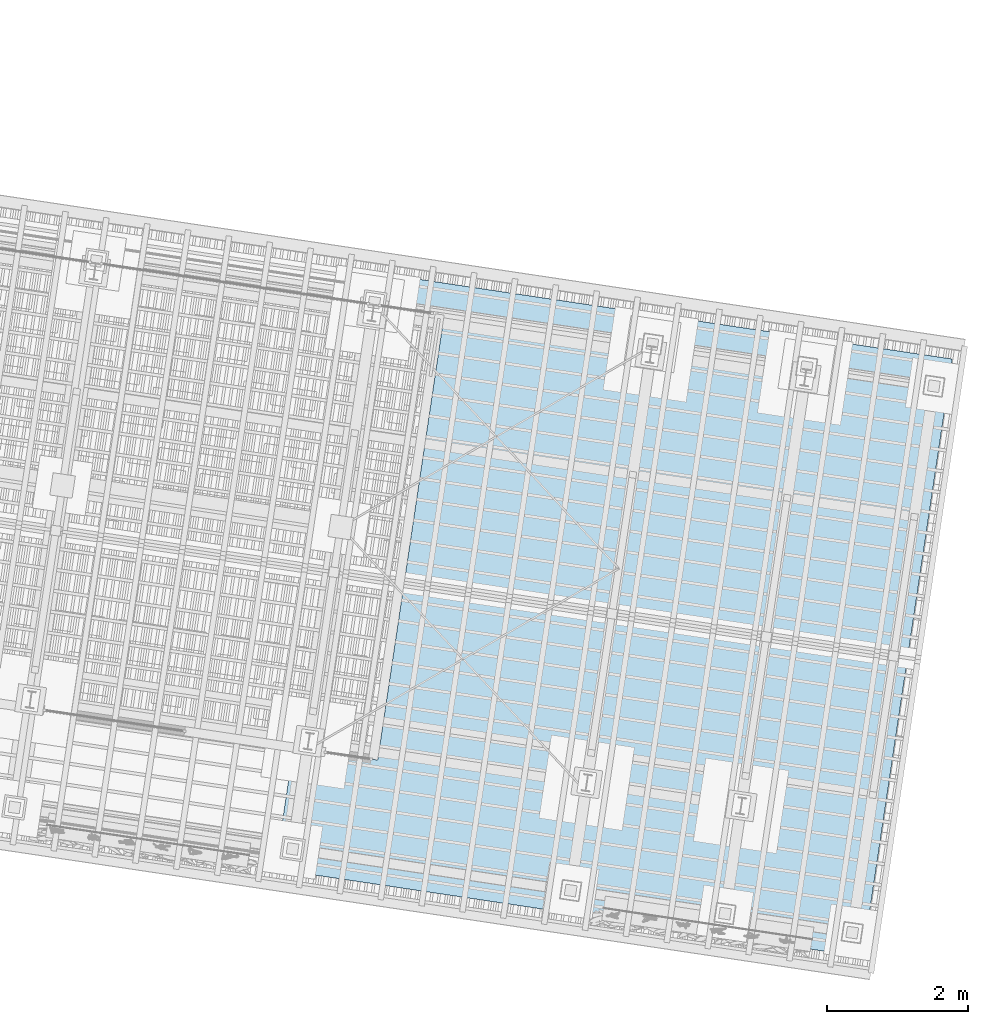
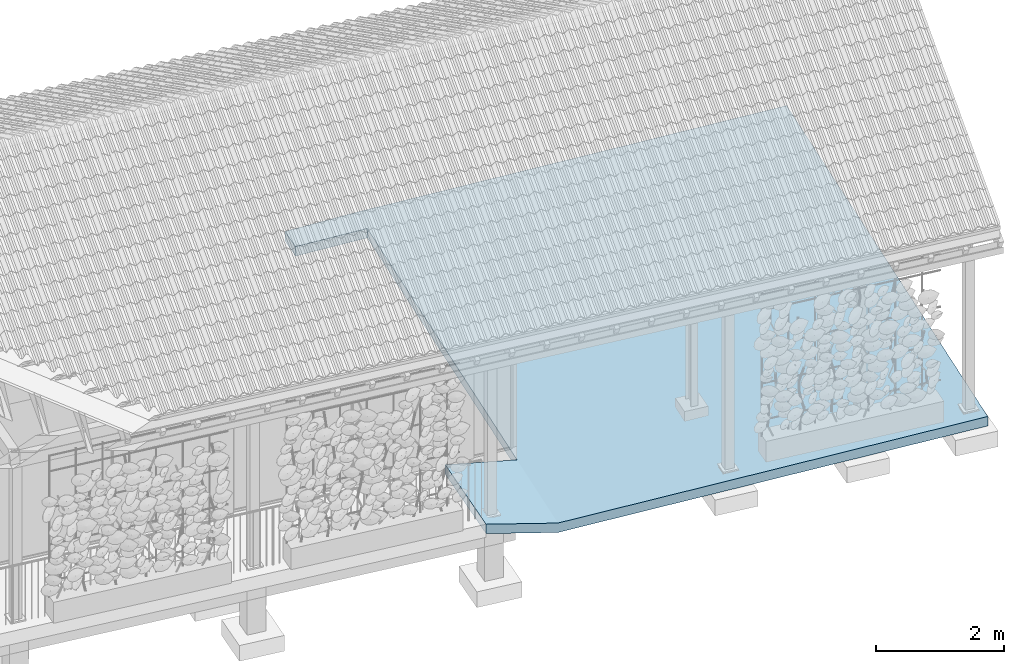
# One storey, part 123 of 131: 1 slab, 1 element without a shape of its own.
"""IFC4 building model written with IfcOpenShell, lengths in metres."""

from ifc_helpers import new_model, si_unit, direction, frame, origin_with_axes, place, context, subcontext, project, spatial, polygons, material, element, aggregate, save


model = new_model("IFC4")

# Units and contexts
model_context = context("Model", 3, precision=1e-05, world=origin_with_axes(), true_north=direction((0.0, 1.0)))
body_context = subcontext(model_context, "Body", "Model", "MODEL_VIEW")
ifc_project = project(units=[si_unit("VOLUMEUNIT", "CUBIC_METRE"), si_unit("LENGTHUNIT", "METRE"), si_unit("AREAUNIT", "SQUARE_METRE")], contexts=[model_context])

# Site, building, storey
site_placement = place(None, origin_with_axes())
site = spatial("IfcSite", under=ifc_project, at=site_placement, Name="Lares · Rua das Mercês · artigo 4771")
building_placement = place(site_placement, frame((15.0, 9.7, 14.65), z_axis=(0.0, 0.0, 1.0), x_axis=(0.989015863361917, -0.147809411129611, 0.0)))
building = spatial("IfcBuilding", under=site, at=building_placement, Name="Casa Sobreposta")
storey_placement = place(building_placement, origin_with_axes())
storey = spatial("IfcBuildingStorey", under=building, at=storey_placement, Name="00 · Habitação e estacionamento", Elevation=14.65)

# Assembly, slab
assembly_placement = place(storey_placement, origin_with_axes())
assembly = element("IfcElementAssembly", 1, at=assembly_placement, inside=storey, Name="Pódio · terraço, casa térrea e cisterna", ObjectType="CISTERN_PODIUM", PredefinedType="USERDEFINED")
ifc_material = material(Name="Betão armado / Stahlbeton", Category="concrete")
slab_placement = place(assembly_placement, origin_with_axes())
slab = element("IfcSlab", 2, at=slab_placement, material=ifc_material, Name="Estacionamento · pavimento apoiado no solo", PredefinedType="BASESLAB", context=body_context, shape_type="Tessellation", body=[
    polygons([(25.01, 6.85, -0.163599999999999), (25.01, -1.75, -0.5076), (32.25, -1.75, -0.326600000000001), (25.01, 6.85, 0.0164000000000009), (25.01, -1.75, -0.3276), (32.25, -1.75, -0.146600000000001), (25.01, 6.85, -0.163599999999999), (32.25, -1.75, -0.326600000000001), (32.25, 6.85, 0.0174), (25.01, 6.85, 0.0164000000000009), (32.25, -1.75, -0.146600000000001), (32.25, 6.85, 0.1974), (23.8, 0.0, -0.219999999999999), (23.8, -1.75, -0.219999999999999), (25.01, -1.75, -0.5076), (23.8, 0.0, -0.0399999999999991), (23.8, -1.75, -0.0399999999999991), (25.01, -1.75, -0.3276), (23.8, 0.0, -0.219999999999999), (25.01, -1.75, -0.5076), (25.01, 0.0, -0.4376), (23.8, 0.0, -0.0399999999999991), (25.01, -1.75, -0.3276), (25.01, 0.0, -0.2576), (23.8, 6.85, -0.219999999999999), (23.8, 6.4, -0.219999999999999), (25.01, 6.4, -0.1816), (23.8, 6.85, -0.0399999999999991), (23.8, 6.4, -0.0399999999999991), (25.01, 6.4, -0.00159999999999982), (23.8, 6.85, -0.219999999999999), (25.01, 6.4, -0.1816), (25.01, 6.85, -0.163599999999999), (23.8, 6.85, -0.0399999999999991), (25.01, 6.4, -0.00159999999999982), (25.01, 6.85, 0.0164000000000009)], [[[3, 2, 1]], [[4, 5, 6]], [[1, 2, 5, 4]], [[2, 3, 6, 5]], [[3, 1, 4, 6]], [[9, 8, 7]], [[10, 11, 12]], [[7, 8, 11, 10]], [[8, 9, 12, 11]], [[9, 7, 10, 12]], [[15, 14, 13]], [[16, 17, 18]], [[13, 14, 17, 16]], [[14, 15, 18, 17]], [[15, 13, 16, 18]], [[21, 20, 19]], [[22, 23, 24]], [[19, 20, 23, 22]], [[20, 21, 24, 23]], [[21, 19, 22, 24]], [[27, 26, 25]], [[28, 29, 30]], [[25, 26, 29, 28]], [[26, 27, 30, 29]], [[27, 25, 28, 30]], [[33, 32, 31]], [[34, 35, 36]], [[31, 32, 35, 34]], [[32, 33, 36, 35]], [[33, 31, 34, 36]]]),
])
aggregate(assembly, [slab])

save(model, "model.ifc")
